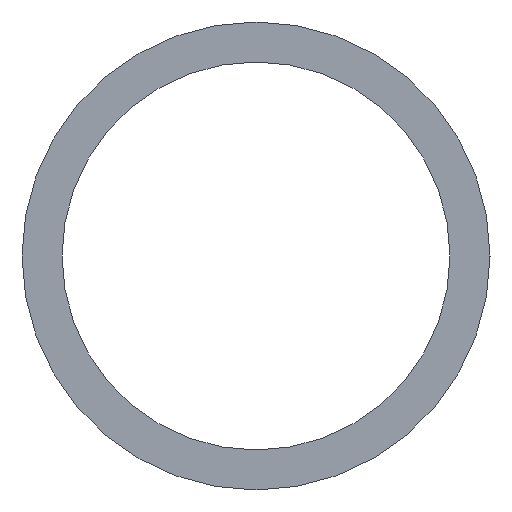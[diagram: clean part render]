
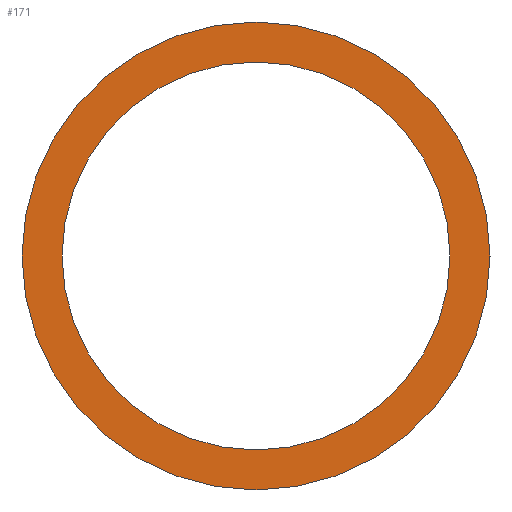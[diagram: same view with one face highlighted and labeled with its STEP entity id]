
A CAD part, front view. The second image highlights one B-rep face of the part: STEP entity #171.
In plain terms, the highlighted planar face has unit normal (0, -1, 0).
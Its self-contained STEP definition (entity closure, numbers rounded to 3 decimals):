
#2 = AXIS2_PLACEMENT_3D ( 'NONE', #138, #188, #6 ) ;
#6 = DIRECTION ( 'NONE',  ( 1., 0., 0. ) ) ;
#12 = VERTEX_POINT ( 'NONE', #133 ) ;
#15 = DIRECTION ( 'NONE',  ( 0., -1., 0. ) ) ;
#17 = FACE_OUTER_BOUND ( 'NONE', #74, .T. ) ;
#32 = ORIENTED_EDGE ( 'NONE', *, *, #98, .T. ) ;
#35 = CIRCLE ( 'NONE', #127, 11.15 ) ;
#41 = AXIS2_PLACEMENT_3D ( 'NONE', #57, #15, #212 ) ;
#45 = CARTESIAN_POINT ( 'NONE',  ( 6905., 1960., 2995.85 ) ) ;
#51 = EDGE_CURVE ( 'NONE', #12, #147, #153, .T. ) ;
#57 = CARTESIAN_POINT ( 'NONE',  ( 6905., 1960., 2995.85 ) ) ;
#72 = ORIENTED_EDGE ( 'NONE', *, *, #51, .T. ) ;
#74 = EDGE_LOOP ( 'NONE', ( #72, #32 ) ) ;
#85 = DIRECTION ( 'NONE',  ( 1., 0., 0. ) ) ;
#91 = EDGE_CURVE ( 'NONE', #200, #157, #35, .T. ) ;
#95 = ORIENTED_EDGE ( 'NONE', *, *, #91, .F. ) ;
#96 = DIRECTION ( 'NONE',  ( 0., -1., 0. ) ) ;
#97 = ORIENTED_EDGE ( 'NONE', *, *, #111, .F. ) ;
#98 = EDGE_CURVE ( 'NONE', #147, #12, #143, .T. ) ;
#104 = CARTESIAN_POINT ( 'NONE',  ( 6905., 1960., 2995.85 ) ) ;
#105 = CARTESIAN_POINT ( 'NONE',  ( 6918.45, 1960., 2995.85 ) ) ;
#107 = FACE_BOUND ( 'NONE', #118, .T. ) ;
#111 = EDGE_CURVE ( 'NONE', #157, #200, #158, .T. ) ;
#118 = EDGE_LOOP ( 'NONE', ( #97, #95 ) ) ;
#124 = PLANE ( 'NONE',  #207 ) ;
#127 = AXIS2_PLACEMENT_3D ( 'NONE', #128, #96, #132 ) ;
#128 = CARTESIAN_POINT ( 'NONE',  ( 6905., 1960., 2995.85 ) ) ;
#132 = DIRECTION ( 'NONE',  ( 1., 0., 0. ) ) ;
#133 = CARTESIAN_POINT ( 'NONE',  ( 6891.55, 1960., 2995.85 ) ) ;
#138 = CARTESIAN_POINT ( 'NONE',  ( 6905., 1960., 2995.85 ) ) ;
#143 = CIRCLE ( 'NONE', #160, 13.45 ) ;
#147 = VERTEX_POINT ( 'NONE', #105 ) ;
#153 = CIRCLE ( 'NONE', #41, 13.45 ) ;
#157 = VERTEX_POINT ( 'NONE', #191 ) ;
#158 = CIRCLE ( 'NONE', #2, 11.15 ) ;
#160 = AXIS2_PLACEMENT_3D ( 'NONE', #45, #168, #185 ) ;
#168 = DIRECTION ( 'NONE',  ( 0., -1., 0. ) ) ;
#171 = ADVANCED_FACE ( 'NONE', ( #107, #17 ), #124, .T. ) ;
#174 = DIRECTION ( 'NONE',  ( 0., -1., 0. ) ) ;
#185 = DIRECTION ( 'NONE',  ( 1., 0., 0. ) ) ;
#188 = DIRECTION ( 'NONE',  ( 0., -1., 0. ) ) ;
#189 = CARTESIAN_POINT ( 'NONE',  ( 6916.15, 1960., 2995.85 ) ) ;
#191 = CARTESIAN_POINT ( 'NONE',  ( 6893.85, 1960., 2995.85 ) ) ;
#200 = VERTEX_POINT ( 'NONE', #189 ) ;
#207 = AXIS2_PLACEMENT_3D ( 'NONE', #104, #174, #85 ) ;
#212 = DIRECTION ( 'NONE',  ( 1., 0., 0. ) ) ;
